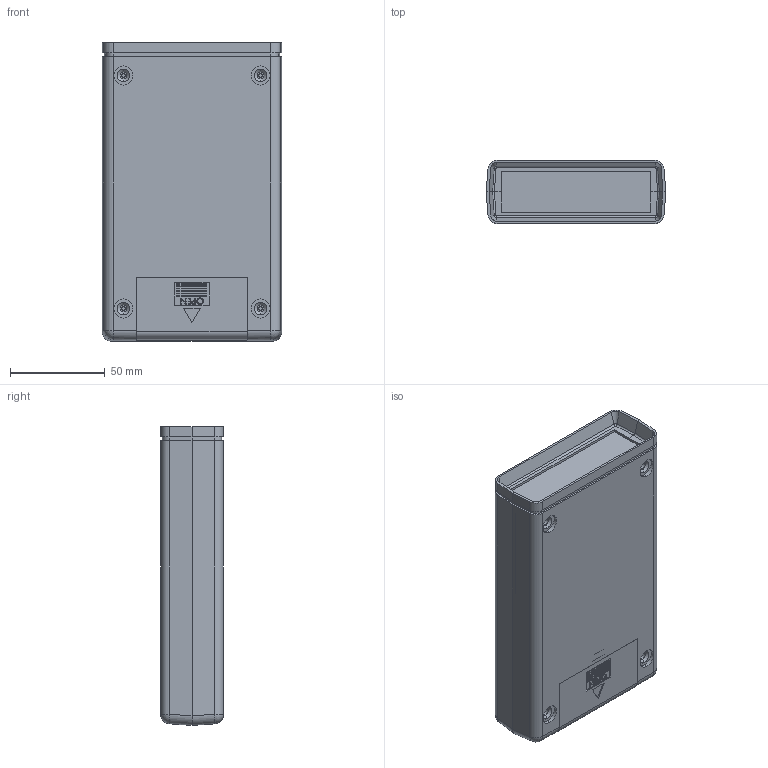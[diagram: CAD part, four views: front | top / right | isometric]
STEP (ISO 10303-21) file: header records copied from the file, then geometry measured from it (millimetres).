
FILE_DESCRIPTION (( 'STEP AP214' ), '1' );
FILE_NAME ('UOCM-116.STEP', '2020-05-22T20:52:50', ( 'Rudy' ), ( '' ), 'SwSTEP 2.0', 'SolidWorks 2014', '' );
FILE_SCHEMA (( 'AUTOMOTIVE_DESIGN' ));
Length unit declared in the file: inch
Products named in the file (5): UOCM-S; door-2AA; UOCM-top; UOCM-bottom 2 AA; UOCM-116
Assembly tree (4 placements, depth 2):
  UOCM-116
    UOCM-bottom 2 AA
    UOCM-top
    door-2AA
    UOCM-S
Bounding box: 94.79 x 33.27 x 157.86 mm (x, y, z)
Volume: 137309.6 mm3; surface area: 107062.6 mm2
Topology: 4 solids, 4 shells, 1145 faces, 3093 edges, 1994 vertices
Faces by surface type: plane 602, cylinder 316, torus 101, cone 88, bspline 34, sphere 4
Entity records: 37509 total; most frequent: CARTESIAN_POINT 9133, ORIENTED_EDGE 6170, DIRECTION 5624, EDGE_CURVE 3085, VERTEX_POINT 1994, VECTOR 1982, LINE 1982, AXIS2_PLACEMENT_3D 1821
